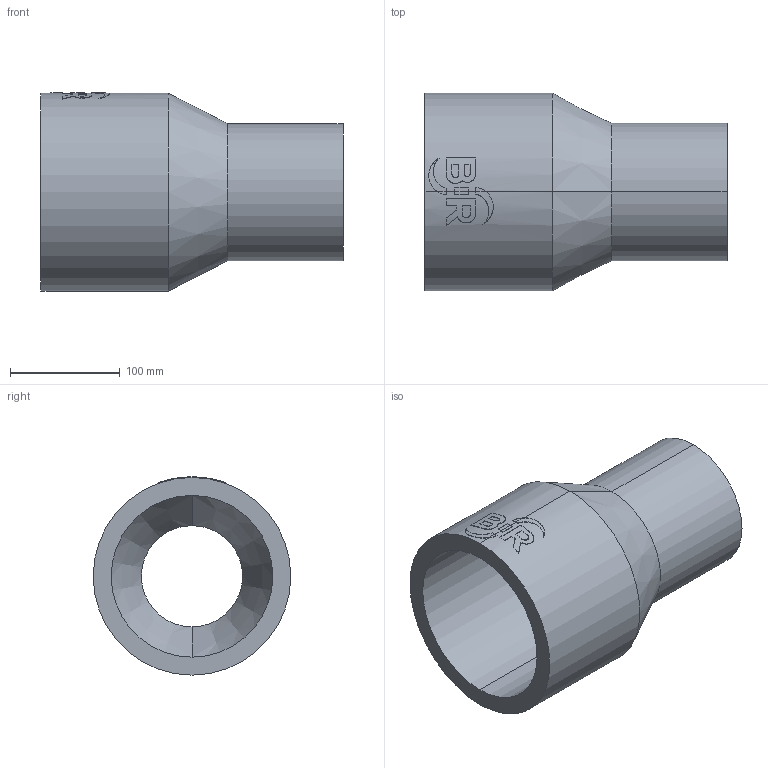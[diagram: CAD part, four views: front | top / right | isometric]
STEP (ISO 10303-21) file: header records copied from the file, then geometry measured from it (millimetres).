
FILE_DESCRIPTION (( 'STEP AP214' ), '1' );
FILE_NAME ('2323181515.STEP', '2018-07-20T09:52:10', ( '' ), ( '' ), 'SwSTEP 2.0', 'SolidWorks 2017', '' );
FILE_SCHEMA (( 'AUTOMOTIVE_DESIGN' ));
Length unit declared in the file: millimetre
Products named in the file (1): 2323181515
Bounding box: 275 x 180 x 180.46 mm (x, y, z)
Volume: 1985220.1 mm3; surface area: 256296.8 mm2
Topology: 1 solids, 1 shells, 63 faces, 160 edges, 104 vertices
Faces by surface type: cylinder 31, plane 28, cone 4
Entity records: 3273 total; most frequent: CARTESIAN_POINT 1064, ORIENTED_EDGE 320, DIRECTION 296, EDGE_CURVE 160, AXIS2_PLACEMENT_3D 112, VERTEX_POINT 104, VECTOR 72, LINE 72
